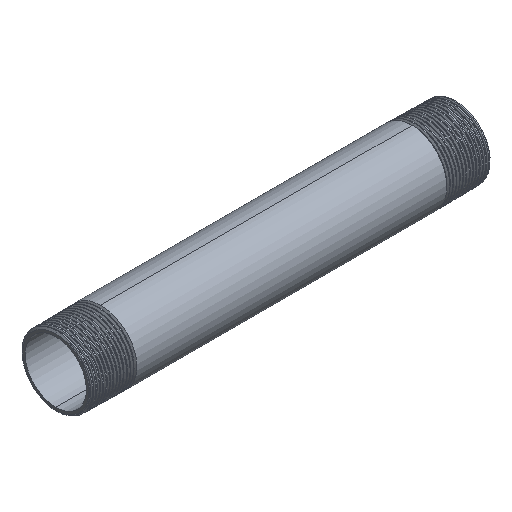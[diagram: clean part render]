
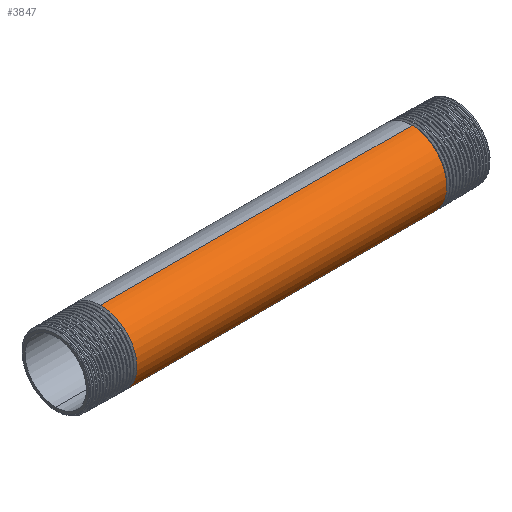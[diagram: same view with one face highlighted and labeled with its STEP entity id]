
A CAD part, isometric view. The second image highlights one B-rep face of the part: STEP entity #3847.
In plain terms, the highlighted cylindrical face has radius 10.65 mm (diameter 21.3 mm), a partial arc.
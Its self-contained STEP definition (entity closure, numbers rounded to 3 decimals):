
#79 = EDGE_CURVE ( 'NONE', #4303, #3416, #7915, .T. ) ;
#551 = CARTESIAN_POINT ( 'NONE',  ( 46.625, 0., 10.65 ) ) ;
#563 = DIRECTION ( 'NONE',  ( -1., 0., 0. ) ) ;
#752 = EDGE_LOOP ( 'NONE', ( #7811, #10716, #8645, #4811 ) ) ;
#1446 = CARTESIAN_POINT ( 'NONE',  ( 46.563, -4.411, 10.65 ) ) ;
#1623 = CYLINDRICAL_SURFACE ( 'NONE', #10339, 10.65 ) ;
#1719 = DIRECTION ( 'NONE',  ( -1., 0., 0. ) ) ;
#1758 = CARTESIAN_POINT ( 'NONE',  ( -46.625, 0., 10.65 ) ) ;
#2316 = CARTESIAN_POINT ( 'NONE',  ( 46.125, 0., -10.65 ) ) ;
#3206 = CARTESIAN_POINT ( 'NONE',  ( 46.375, -10.65, 0. ) ) ;
#3260 = CARTESIAN_POINT ( 'NONE',  ( 46.438, -10.65, 4.411 ) ) ;
#3416 = VERTEX_POINT ( 'NONE', #9916 ) ;
#3687 = VECTOR ( 'NONE', #10484, 1000. ) ;
#3847 = ADVANCED_FACE ( 'NONE', ( #9445 ), #1623, .T. ) ;
#4206 = CARTESIAN_POINT ( 'NONE',  ( -46.125, 0., -10.65 ) ) ;
#4303 = VERTEX_POINT ( 'NONE', #9774 ) ;
#4425 = VERTEX_POINT ( 'NONE', #2316 ) ;
#4434 = CARTESIAN_POINT ( 'NONE',  ( -46.125, 0., -10.65 ) ) ;
#4437 = CARTESIAN_POINT ( 'NONE',  ( -46.438, -10.65, 4.411 ) ) ;
#4811 = ORIENTED_EDGE ( 'NONE', *, *, #9495, .F. ) ;
#5621 = CARTESIAN_POINT ( 'NONE',  ( 46.25, -7.531, -7.531 ) ) ;
#6038 = CARTESIAN_POINT ( 'NONE',  ( -46.5, -7.531, 7.531 ) ) ;
#6483 = CARTESIAN_POINT ( 'NONE',  ( 46.188, -4.411, -10.65 ) ) ;
#6668 = DIRECTION ( 'NONE',  ( 0., 0., 1. ) ) ;
#6717 =( BOUNDED_CURVE ( )  B_SPLINE_CURVE ( 2, ( #4206, #8551, #7749, #7862, #8775, #4437, #6038, #9519, #1758 ),
 .UNSPECIFIED., .F., .F. ) 
 B_SPLINE_CURVE_WITH_KNOTS ( ( 3, 2, 2, 2, 3 ),
 ( 0., 0.007, 0.014, 0.021, 0.028 ),
 .UNSPECIFIED. ) 
 CURVE ( )  GEOMETRIC_REPRESENTATION_ITEM ( )  RATIONAL_B_SPLINE_CURVE ( ( 1., 0.924, 1., 0.924, 1., 0.924, 1., 0.924, 1. ) ) 
 REPRESENTATION_ITEM ( '' )  );
#6864 = LINE ( 'NONE', #10336, #8401 ) ;
#7002 = CARTESIAN_POINT ( 'NONE',  ( -149.494, 0., 10.65 ) ) ;
#7445 =( BOUNDED_CURVE ( )  B_SPLINE_CURVE ( 2, ( #10801, #6483, #5621, #9206, #3206, #3260, #10071, #1446, #551 ),
 .UNSPECIFIED., .F., .F. ) 
 B_SPLINE_CURVE_WITH_KNOTS ( ( 3, 2, 2, 2, 3 ),
 ( 0., 0.007, 0.014, 0.021, 0.028 ),
 .UNSPECIFIED. ) 
 CURVE ( )  GEOMETRIC_REPRESENTATION_ITEM ( )  RATIONAL_B_SPLINE_CURVE ( ( 1., 0.924, 1., 0.924, 1., 0.924, 1., 0.924, 1. ) ) 
 REPRESENTATION_ITEM ( '' )  );
#7749 = CARTESIAN_POINT ( 'NONE',  ( -46.25, -7.531, -7.531 ) ) ;
#7811 = ORIENTED_EDGE ( 'NONE', *, *, #8089, .F. ) ;
#7815 = EDGE_CURVE ( 'NONE', #4425, #4303, #7445, .T. ) ;
#7862 = CARTESIAN_POINT ( 'NONE',  ( -46.313, -10.65, -4.411 ) ) ;
#7915 = LINE ( 'NONE', #7002, #3687 ) ;
#8089 = EDGE_CURVE ( 'NONE', #4425, #8487, #6864, .T. ) ;
#8401 = VECTOR ( 'NONE', #1719, 1000. ) ;
#8487 = VERTEX_POINT ( 'NONE', #4434 ) ;
#8551 = CARTESIAN_POINT ( 'NONE',  ( -46.188, -4.411, -10.65 ) ) ;
#8645 = ORIENTED_EDGE ( 'NONE', *, *, #79, .T. ) ;
#8775 = CARTESIAN_POINT ( 'NONE',  ( -46.375, -10.65, 0. ) ) ;
#9206 = CARTESIAN_POINT ( 'NONE',  ( 46.313, -10.65, -4.411 ) ) ;
#9445 = FACE_OUTER_BOUND ( 'NONE', #752, .T. ) ;
#9495 = EDGE_CURVE ( 'NONE', #8487, #3416, #6717, .T. ) ;
#9519 = CARTESIAN_POINT ( 'NONE',  ( -46.563, -4.411, 10.65 ) ) ;
#9774 = CARTESIAN_POINT ( 'NONE',  ( 46.625, 0., 10.65 ) ) ;
#9916 = CARTESIAN_POINT ( 'NONE',  ( -46.625, 0., 10.65 ) ) ;
#10071 = CARTESIAN_POINT ( 'NONE',  ( 46.5, -7.531, 7.531 ) ) ;
#10085 = CARTESIAN_POINT ( 'NONE',  ( -149.494, 0., 0. ) ) ;
#10336 = CARTESIAN_POINT ( 'NONE',  ( -149.494, 0., -10.65 ) ) ;
#10339 = AXIS2_PLACEMENT_3D ( 'NONE', #10085, #563, #6668 ) ;
#10484 = DIRECTION ( 'NONE',  ( -1., 0., 0. ) ) ;
#10716 = ORIENTED_EDGE ( 'NONE', *, *, #7815, .T. ) ;
#10801 = CARTESIAN_POINT ( 'NONE',  ( 46.125, 0., -10.65 ) ) ;
